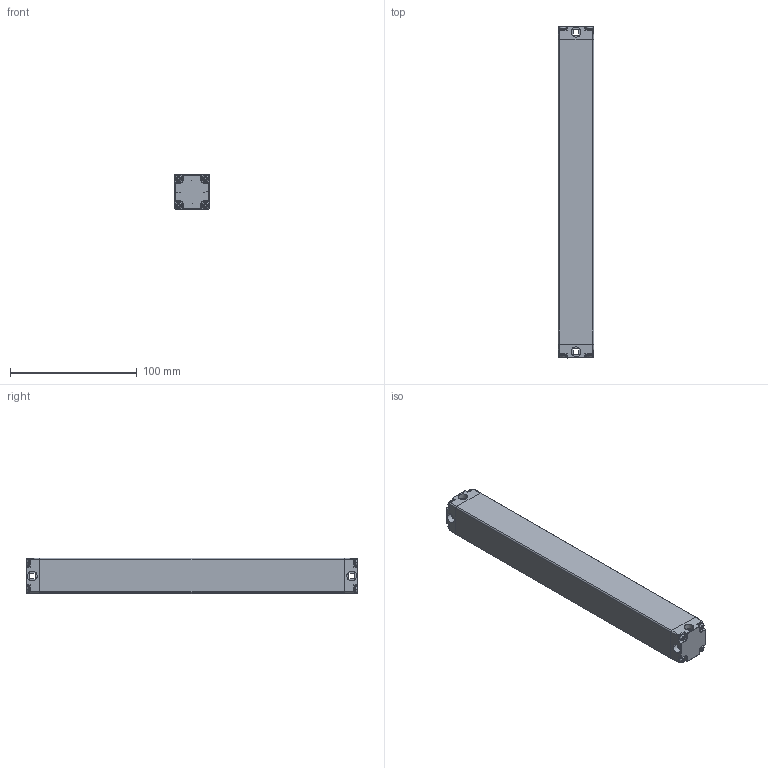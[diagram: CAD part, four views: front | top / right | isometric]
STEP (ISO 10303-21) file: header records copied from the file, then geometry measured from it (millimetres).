
FILE_DESCRIPTION((''),'2;1');
FILE_NAME('ELD00_ASM','2021-07-20T09:23:27',('18720616900'),(''),'CREO PARAMETRIC BY PTC INC, 2019010','CREO PARAMETRIC BY PTC INC, 2019010','');
FILE_SCHEMA(('CONFIG_CONTROL_DESIGN'));
Length unit declared in the file: millimetre
Products named in the file (6): ELD--00; ELD--000; ST-3-12; ELD00_ASM
Assembly tree (12 placements, depth 2):
  ELD00_ASM
    ELD--00
    ELD--000
    ELD--000
    ELD--000
    ST-3-12  x8
Bounding box: 28 x 262 x 28 mm (x, y, z)
Volume: 201159.2 mm3; surface area: 48313.3 mm2
Topology: 12 solids, 12 shells, 792 faces, 2082 edges, 1296 vertices
Faces by surface type: plane 236, cone 172, bspline 168, cylinder 156, torus 44, sphere 16
Entity records: 14414 total; most frequent: CARTESIAN_POINT 6863, ORIENTED_EDGE 1584, DIRECTION 1469, EDGE_CURVE 792, AXIS2_PLACEMENT_3D 520, VERTEX_POINT 491, VECTOR 429, LINE 429
